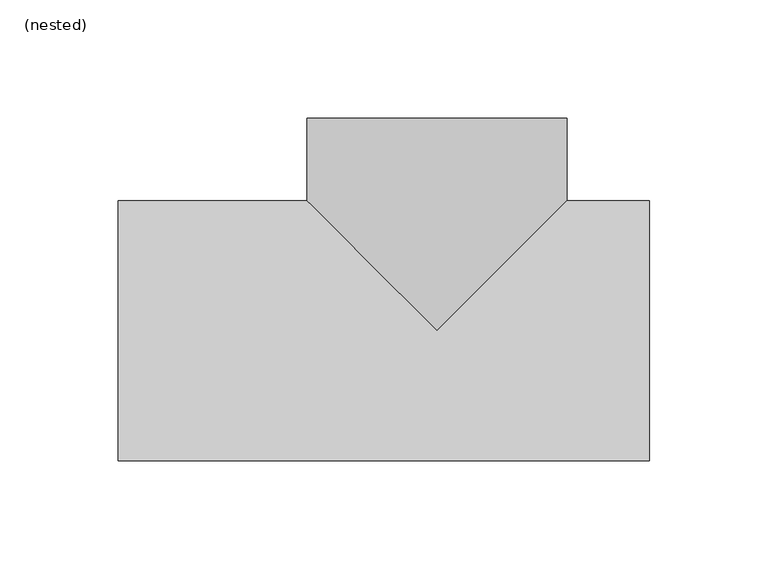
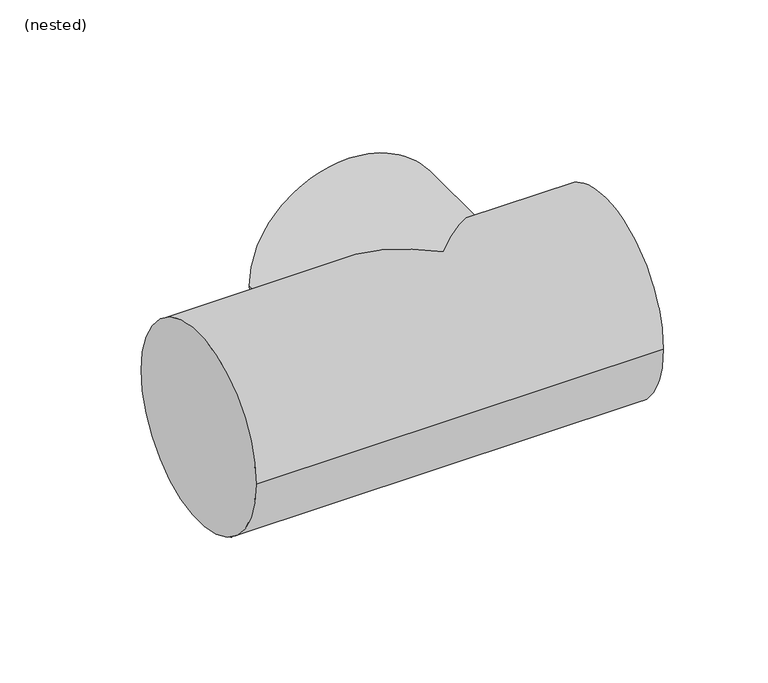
"""IFC4 building model written with IfcOpenShell, lengths in millimetres: pipe fitting geometry, NLRS_52_PIF_UN_PE T-stuk 88,5°_SH_geb : (nested)."""

from ifc_helpers import new_model, si_unit, frame, origin, place, context, project, spatial, circle_curve, ellipse_curve, source, transform, mapped, element, save
from ifc_brep_helpers import plane_surface, cylinder_surface, advanced_brep


def nested_2992b03f(model_context):
    return source(origin(), model_context, "Body", "AdvancedBrep", [
        advanced_brep(
        [(90.0, -55.0, 0.0), (90.0, 55.0, 0.0), (-135.0, -55.0, 0.0), (-135.0, 55.0, 0.0), (-55.0, 55.0, 0.0), (0.0, 0.0, -55.0), (55.0, 55.0, 0.0), (0.0, 0.0, 55.0), (55.0, 90.0, 0.0), (-55.0, 90.0, 0.0)],
        [
            (0, 1, circle_curve(frame((90.0, 0.0, 0.0), z_axis=(1.0, 0.0, 0.0), x_axis=(0.0, 1.0, 0.0)), 55.0)),
            (1, 0, circle_curve(frame((90.0, 0.0, 0.0), z_axis=(1.0, 0.0, 0.0), x_axis=(0.0, 1.0, 0.0)), 55.0)),
            (2, 3, circle_curve(frame((-135.0, 0.0, 0.0), z_axis=(-1.0, 0.0, 0.0), x_axis=(0.0, 1.0, 0.0)), 55.0)),
            (3, 2, circle_curve(frame((-135.0, 0.0, 0.0), z_axis=(-1.0, 0.0, 0.0), x_axis=(0.0, 1.0, 0.0)), 55.0)),
            (0, 2),
            (3, 4),
            (4, 5, ellipse_curve(frame((0.0, 0.0, 0.0), z_axis=(-0.707106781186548, -0.7071067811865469, 0.0), x_axis=(0.7071067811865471, -0.7071067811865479, 0.0)), 77.7817459, 55.0)),
            (5, 6, ellipse_curve(frame((0.0, 0.0, 0.0), z_axis=(0.7071067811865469, -0.707106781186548, 0.0), x_axis=(0.7071067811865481, 0.7071067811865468, 0.0)), 77.7817459, 55.0)),
            (6, 1),
            (6, 7, ellipse_curve(frame((0.0, 0.0, 0.0), z_axis=(0.7071067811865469, -0.707106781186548, 0.0), x_axis=(0.7071067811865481, 0.7071067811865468, 0.0)), 77.7817459, 55.0)),
            (7, 4, ellipse_curve(frame((0.0, 0.0, 0.0), z_axis=(-0.707106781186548, -0.7071067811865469, 0.0), x_axis=(0.7071067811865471, -0.7071067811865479, 0.0)), 77.7817459, 55.0)),
            (8, 9, circle_curve(frame((0.0, 90.0, 0.0), z_axis=(0.0, 1.0, 0.0), x_axis=(-1.0, 0.0, 0.0)), 55.0)),
            (9, 8, circle_curve(frame((0.0, 90.0, 0.0), z_axis=(0.0, 1.0, 0.0), x_axis=(-1.0, 0.0, 0.0)), 55.0)),
            (9, 4),
            (6, 8),
        ],
        [
            plane_surface(frame((90.0, 55.0, 0.0), z_axis=(1.0, 0.0, 0.0), x_axis=(0.0, 0.0, 1.0))),
            plane_surface(frame((-135.0, 55.0, 0.0), z_axis=(-1.0, 0.0, 0.0), x_axis=(0.0, 0.0, -1.0))),
            cylinder_surface(frame((-135.0, 0.0, 0.0), z_axis=(1.0, 0.0, 0.0), x_axis=(0.0, 1.0, 0.0)), 55.0),
            plane_surface(frame((0.0, 90.0, 0.0), z_axis=(0.0, 1.0, 0.0), x_axis=(0.0, 0.0, 1.0))),
            cylinder_surface(frame((0.0, 0.0, 0.0), z_axis=(0.0, -1.0, 0.0), x_axis=(-1.0, 0.0, 0.0)), 55.0),
        ],
        [
            (0, [[1, 2]]),
            (1, [[3, 4]]),
            (2, [[-1, 5, -4, 6, 7, 8, 9]]),
            (2, [[-2, -9, 10, 11, -6, -3, -5]]),
            (3, [[12, 13]]),
            (4, [[-13, 14, -11, -10, 15]]),
            (4, [[-12, -15, -8, -7, -14]]),
        ],
    ),
    ])


if __name__ == "__main__":
    model = new_model("IFC4")
    model_context = context("Model", 3, world=origin())
    ifc_project = project(units=[si_unit("LENGTHUNIT", "METRE", prefix="MILLI")], contexts=[model_context])
    site = spatial("IfcSite", under=ifc_project)
    building = spatial("IfcBuilding", under=site)
    placement = place(None, origin())
    nested_shape = nested_2992b03f(model_context)
    element("IfcPipeFitting", 1, ObjectType="NLRS_52_PIF_UN_PE T-stuk 88,5°_SH_geb : (nested)", at=placement, inside=building, context=model_context, shape_type="MappedRepresentation", body=[
        mapped(nested_shape, transform((0.0, 0.0, 0.0), x_axis=(1.0, 0.0, 0.0), y_axis=(0.0, 1.0, 0.0), z_axis=(0.0, 0.0, 1.0))),
    ])
    save(model, "model.ifc")
